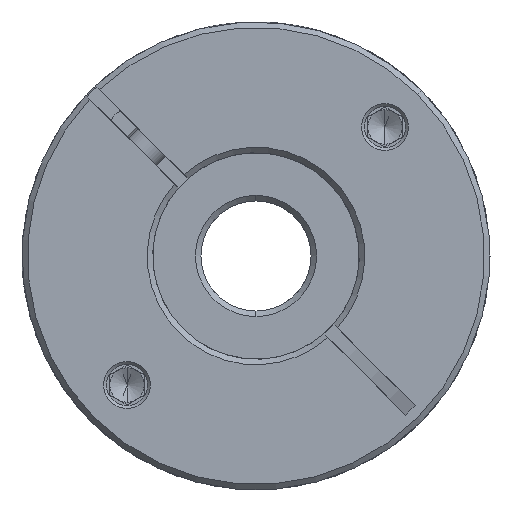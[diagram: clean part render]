
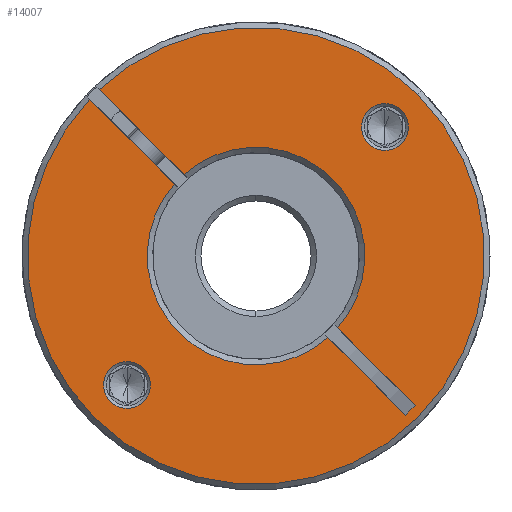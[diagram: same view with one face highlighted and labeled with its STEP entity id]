
A CAD part, front view. The second image highlights one B-rep face of the part: STEP entity #14007.
In plain terms, the highlighted planar face has unit normal (0, -1, 0).
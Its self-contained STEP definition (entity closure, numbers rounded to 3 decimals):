
#2 = VERTEX_POINT ( 'NONE', #19490 ) ;
#119 = PLANE ( 'NONE',  #8932 ) ;
#147 = VERTEX_POINT ( 'NONE', #11398 ) ;
#246 = VERTEX_POINT ( 'NONE', #13909 ) ;
#354 = VERTEX_POINT ( 'NONE', #20679 ) ;
#445 = DIRECTION ( 'NONE',  ( 0., 1., 0. ) ) ;
#605 = DIRECTION ( 'NONE',  ( 0.707, 0., 0.707 ) ) ;
#679 = CIRCLE ( 'NONE', #12447, 3.4 ) ;
#1157 = VECTOR ( 'NONE', #3441, 1000. ) ;
#1269 = EDGE_CURVE ( 'NONE', #354, #5426, #16628, .T. ) ;
#1412 = DIRECTION ( 'NONE',  ( 0., 1., 0. ) ) ;
#1765 = CARTESIAN_POINT ( 'NONE',  ( -2.735, -67.045, 68. ) ) ;
#1939 = EDGE_CURVE ( 'NONE', #6803, #9557, #17893, .T. ) ;
#2043 = CIRCLE ( 'NONE', #3640, 3.4 ) ;
#2167 = EDGE_CURVE ( 'NONE', #246, #16495, #4320, .T. ) ;
#2488 = CARTESIAN_POINT ( 'NONE',  ( -2.735, -67.045, 68. ) ) ;
#2701 = CARTESIAN_POINT ( 'NONE',  ( -3.442, -67.045, 67.293 ) ) ;
#2770 = CARTESIAN_POINT ( 'NONE',  ( -3.442, -67.045, 67.293 ) ) ;
#2858 = ORIENTED_EDGE ( 'NONE', *, *, #2167, .T. ) ;
#2989 = ORIENTED_EDGE ( 'NONE', *, *, #13279, .F. ) ;
#3053 = VECTOR ( 'NONE', #12871, 1000. ) ;
#3094 = DIRECTION ( 'NONE',  ( 0.707, 0., 0.707 ) ) ;
#3259 = ORIENTED_EDGE ( 'NONE', *, *, #18250, .T. ) ;
#3281 = EDGE_CURVE ( 'NONE', #10422, #18690, #679, .T. ) ;
#3378 = DIRECTION ( 'NONE',  ( 0.707, 0., -0.707 ) ) ;
#3441 = DIRECTION ( 'NONE',  ( 0.707, 0., -0.707 ) ) ;
#3620 = CARTESIAN_POINT ( 'NONE',  ( -13.178, -67.045, 79.857 ) ) ;
#3640 = AXIS2_PLACEMENT_3D ( 'NONE', #16327, #9459, #6246 ) ;
#3727 = CARTESIAN_POINT ( 'NONE',  ( 16.003, -67.045, 86.738 ) ) ;
#3809 = CIRCLE ( 'NONE', #12730, 33.2 ) ;
#4320 = CIRCLE ( 'NONE', #8126, 33.2 ) ;
#4359 = AXIS2_PLACEMENT_3D ( 'NONE', #3727, #445, #16999 ) ;
#4480 = DIRECTION ( 'NONE',  ( 0.707, 0., 0.707 ) ) ;
#4567 = ORIENTED_EDGE ( 'NONE', *, *, #15006, .T. ) ;
#4571 = VERTEX_POINT ( 'NONE', #5704 ) ;
#4694 = ORIENTED_EDGE ( 'NONE', *, *, #14368, .T. ) ;
#5055 = AXIS2_PLACEMENT_3D ( 'NONE', #17895, #1412, #4480 ) ;
#5063 = DIRECTION ( 'NONE',  ( 0., -1., 0. ) ) ;
#5333 = CIRCLE ( 'NONE', #4359, 3.4 ) ;
#5344 = CARTESIAN_POINT ( 'NONE',  ( 18.988, -67.045, 44.862 ) ) ;
#5414 = CIRCLE ( 'NONE', #5055, 15.8 ) ;
#5426 = VERTEX_POINT ( 'NONE', #10050 ) ;
#5507 = CARTESIAN_POINT ( 'NONE',  ( -26.908, -67.045, 90.758 ) ) ;
#5704 = CARTESIAN_POINT ( 'NONE',  ( 20.402, -67.045, 46.277 ) ) ;
#5897 = ORIENTED_EDGE ( 'NONE', *, *, #9366, .T. ) ;
#6246 = DIRECTION ( 'NONE',  ( 0.707, 0., 0.707 ) ) ;
#6249 = DIRECTION ( 'NONE',  ( 0.707, 0., -0.707 ) ) ;
#6730 = FACE_BOUND ( 'NONE', #11164, .T. ) ;
#6746 = EDGE_LOOP ( 'NONE', ( #13803, #12751 ) ) ;
#6803 = VERTEX_POINT ( 'NONE', #19895 ) ;
#7152 = DIRECTION ( 'NONE',  ( 0.707, 0., 0.707 ) ) ;
#7257 = AXIS2_PLACEMENT_3D ( 'NONE', #8728, #18910, #10602 ) ;
#7327 = DIRECTION ( 'NONE',  ( 0., -1., 0. ) ) ;
#7345 = VERTEX_POINT ( 'NONE', #3620 ) ;
#7351 = EDGE_CURVE ( 'NONE', #2, #246, #13800, .T. ) ;
#7967 = AXIS2_PLACEMENT_3D ( 'NONE', #11663, #19994, #14821 ) ;
#8075 = VECTOR ( 'NONE', #6249, 1000. ) ;
#8083 = ORIENTED_EDGE ( 'NONE', *, *, #1269, .T. ) ;
#8126 = AXIS2_PLACEMENT_3D ( 'NONE', #2488, #19017, #7152 ) ;
#8308 = EDGE_CURVE ( 'NONE', #12967, #147, #5414, .T. ) ;
#8400 = ORIENTED_EDGE ( 'NONE', *, *, #1939, .T. ) ;
#8728 = CARTESIAN_POINT ( 'NONE',  ( -2.735, -67.045, 68. ) ) ;
#8932 = AXIS2_PLACEMENT_3D ( 'NONE', #1765, #5063, #16729 ) ;
#9141 = EDGE_CURVE ( 'NONE', #13444, #147, #16358, .T. ) ;
#9366 = EDGE_CURVE ( 'NONE', #13444, #2, #3809, .T. ) ;
#9459 = DIRECTION ( 'NONE',  ( 0., 1., 0. ) ) ;
#9557 = VERTEX_POINT ( 'NONE', #18034 ) ;
#9712 = DIRECTION ( 'NONE',  ( 0., 1., 0. ) ) ;
#10013 = ORIENTED_EDGE ( 'NONE', *, *, #8308, .T. ) ;
#10050 = CARTESIAN_POINT ( 'NONE',  ( 9.122, -67.045, 57.557 ) ) ;
#10060 = CARTESIAN_POINT ( 'NONE',  ( 18.407, -67.045, 89.142 ) ) ;
#10422 = VERTEX_POINT ( 'NONE', #17945 ) ;
#10602 = DIRECTION ( 'NONE',  ( 0.707, 0., 0.707 ) ) ;
#11164 = EDGE_LOOP ( 'NONE', ( #8400, #13702 ) ) ;
#11398 = CARTESIAN_POINT ( 'NONE',  ( -14.592, -67.045, 78.443 ) ) ;
#11413 = VECTOR ( 'NONE', #19785, 1000. ) ;
#11663 = CARTESIAN_POINT ( 'NONE',  ( -21.473, -67.045, 49.262 ) ) ;
#11671 = FACE_BOUND ( 'NONE', #6746, .T. ) ;
#12406 = DIRECTION ( 'NONE',  ( 0.707, 0., 0.707 ) ) ;
#12447 = AXIS2_PLACEMENT_3D ( 'NONE', #19704, #9712, #3094 ) ;
#12546 = VECTOR ( 'NONE', #3378, 1000. ) ;
#12624 = ORIENTED_EDGE ( 'NONE', *, *, #7351, .T. ) ;
#12730 = AXIS2_PLACEMENT_3D ( 'NONE', #17321, #7327, #12406 ) ;
#12751 = ORIENTED_EDGE ( 'NONE', *, *, #3281, .T. ) ;
#12871 = DIRECTION ( 'NONE',  ( 0.707, 0., -0.707 ) ) ;
#12967 = VERTEX_POINT ( 'NONE', #14719 ) ;
#13049 = CARTESIAN_POINT ( 'NONE',  ( 18.988, -67.045, 44.862 ) ) ;
#13279 = EDGE_CURVE ( 'NONE', #12967, #18268, #15102, .T. ) ;
#13382 = DIRECTION ( 'NONE',  ( 0.707, 0., 0.707 ) ) ;
#13430 = CARTESIAN_POINT ( 'NONE',  ( -2.028, -67.045, 68.707 ) ) ;
#13444 = VERTEX_POINT ( 'NONE', #5507 ) ;
#13466 = CARTESIAN_POINT ( 'NONE',  ( -2.735, -67.045, 68. ) ) ;
#13574 = CARTESIAN_POINT ( 'NONE',  ( -2.028, -67.045, 68.707 ) ) ;
#13702 = ORIENTED_EDGE ( 'NONE', *, *, #21178, .T. ) ;
#13738 = DIRECTION ( 'NONE',  ( 0., -1., 0. ) ) ;
#13800 = CIRCLE ( 'NONE', #20953, 33.2 ) ;
#13803 = ORIENTED_EDGE ( 'NONE', *, *, #16097, .T. ) ;
#13909 = CARTESIAN_POINT ( 'NONE',  ( 20.741, -67.045, 91.476 ) ) ;
#14007 = ADVANCED_FACE ( 'NONE', ( #11671, #6730, #20552 ), #119, .T. ) ;
#14368 = EDGE_CURVE ( 'NONE', #4571, #18268, #20282, .T. ) ;
#14468 = ORIENTED_EDGE ( 'NONE', *, *, #18236, .T. ) ;
#14719 = CARTESIAN_POINT ( 'NONE',  ( 7.708, -67.045, 56.143 ) ) ;
#14792 = ORIENTED_EDGE ( 'NONE', *, *, #9141, .F. ) ;
#14821 = DIRECTION ( 'NONE',  ( 0.707, 0., 0.707 ) ) ;
#14917 = EDGE_LOOP ( 'NONE', ( #14792, #5897, #12624, #2858, #3259, #4567, #8083, #14468, #4694, #2989, #10013 ) ) ;
#15006 = EDGE_CURVE ( 'NONE', #7345, #354, #16607, .T. ) ;
#15102 = LINE ( 'NONE', #2770, #8075 ) ;
#15363 = AXIS2_PLACEMENT_3D ( 'NONE', #13466, #20091, #13382 ) ;
#16097 = EDGE_CURVE ( 'NONE', #18690, #10422, #5333, .T. ) ;
#16327 = CARTESIAN_POINT ( 'NONE',  ( -21.473, -67.045, 49.262 ) ) ;
#16358 = LINE ( 'NONE', #2701, #3053 ) ;
#16495 = VERTEX_POINT ( 'NONE', #19594 ) ;
#16607 = CIRCLE ( 'NONE', #15363, 15.8 ) ;
#16628 = CIRCLE ( 'NONE', #7257, 15.8 ) ;
#16729 = DIRECTION ( 'NONE',  ( 0.707, 0., 0.707 ) ) ;
#16999 = DIRECTION ( 'NONE',  ( 0.707, 0., 0.707 ) ) ;
#17005 = LINE ( 'NONE', #13574, #12546 ) ;
#17321 = CARTESIAN_POINT ( 'NONE',  ( -2.735, -67.045, 68. ) ) ;
#17893 = CIRCLE ( 'NONE', #7967, 3.4 ) ;
#17895 = CARTESIAN_POINT ( 'NONE',  ( -2.735, -67.045, 68. ) ) ;
#17945 = CARTESIAN_POINT ( 'NONE',  ( 13.599, -67.045, 84.334 ) ) ;
#18034 = CARTESIAN_POINT ( 'NONE',  ( -23.878, -67.045, 46.858 ) ) ;
#18236 = EDGE_CURVE ( 'NONE', #5426, #4571, #21446, .T. ) ;
#18250 = EDGE_CURVE ( 'NONE', #16495, #7345, #17005, .T. ) ;
#18268 = VERTEX_POINT ( 'NONE', #5344 ) ;
#18690 = VERTEX_POINT ( 'NONE', #10060 ) ;
#18910 = DIRECTION ( 'NONE',  ( 0., 1., 0. ) ) ;
#19017 = DIRECTION ( 'NONE',  ( 0., -1., 0. ) ) ;
#19490 = CARTESIAN_POINT ( 'NONE',  ( -26.211, -67.045, 44.524 ) ) ;
#19594 = CARTESIAN_POINT ( 'NONE',  ( -25.493, -67.045, 92.172 ) ) ;
#19704 = CARTESIAN_POINT ( 'NONE',  ( 16.003, -67.045, 86.738 ) ) ;
#19785 = DIRECTION ( 'NONE',  ( -0.707, 0., -0.707 ) ) ;
#19895 = CARTESIAN_POINT ( 'NONE',  ( -19.069, -67.045, 51.666 ) ) ;
#19994 = DIRECTION ( 'NONE',  ( 0., 1., 0. ) ) ;
#20091 = DIRECTION ( 'NONE',  ( 0., 1., 0. ) ) ;
#20282 = LINE ( 'NONE', #13049, #11413 ) ;
#20302 = CARTESIAN_POINT ( 'NONE',  ( -2.735, -67.045, 68. ) ) ;
#20552 = FACE_OUTER_BOUND ( 'NONE', #14917, .T. ) ;
#20679 = CARTESIAN_POINT ( 'NONE',  ( 8.437, -67.045, 79.172 ) ) ;
#20953 = AXIS2_PLACEMENT_3D ( 'NONE', #20302, #13738, #605 ) ;
#21178 = EDGE_CURVE ( 'NONE', #9557, #6803, #2043, .T. ) ;
#21446 = LINE ( 'NONE', #13430, #1157 ) ;
